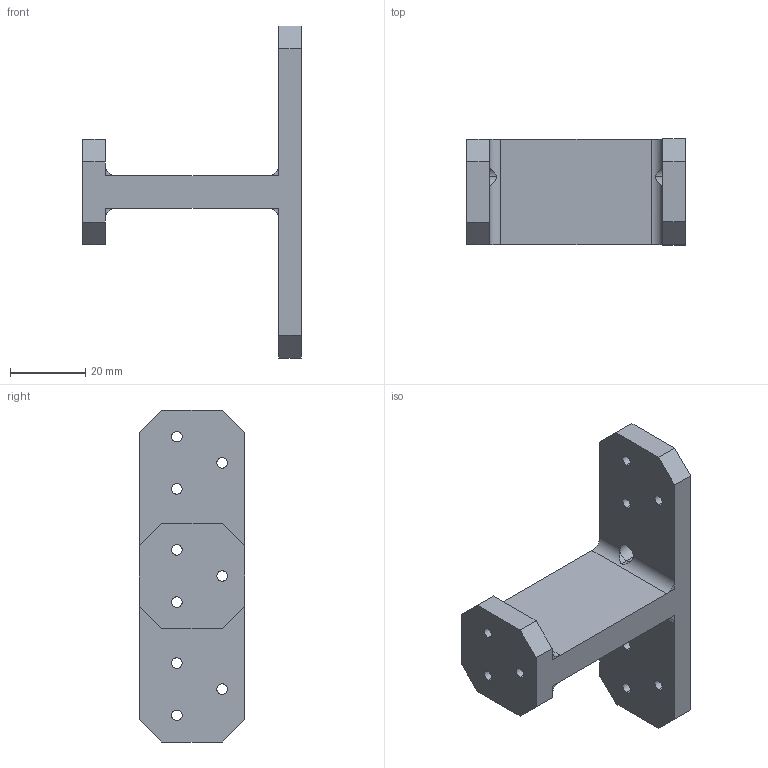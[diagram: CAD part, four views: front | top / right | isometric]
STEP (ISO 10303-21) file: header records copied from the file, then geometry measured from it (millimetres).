
FILE_DESCRIPTION(/* description */ ('(C) Elphel, Inc. 2012. Licensed under CERN OHL v.1.1 or later, see http://ohwr.org/cernohl'),/* implementation_level */ '2;1');
FILE_NAME(/* name */ '0353-18-23',/* time_stamp */ '2012-05-06T01:17:51-06:00',/* author */ (''),/* organization */ ('Elphel, Inc'),/* preprocessor_version */ 'ST-DEVELOPER v12',/* originating_system */ 'VariCAD 2012-1.04; kernel version (20100102)',/* authorisation */ '');
FILE_SCHEMA (('AUTOMOTIVE_DESIGN'));
Length unit declared in the file: millimetre
Products named in the file (1): Part
Bounding box: 57.96 x 28 x 88 mm (x, y, z)
Volume: 27543.7 mm3; surface area: 12970.8 mm2
Topology: 2 solids, 2 shells, 106 faces, 264 edges, 168 vertices
Faces by surface type: cylinder 61, plane 43, cone 2
Entity records: 4031 total; most frequent: CARTESIAN_POINT 589, DIRECTION 588, ORIENTED_EDGE 528, EDGE_CURVE 264, AXIS2_PLACEMENT_3D 223, VERTEX_POINT 168, LINE 142, VECTOR 142
